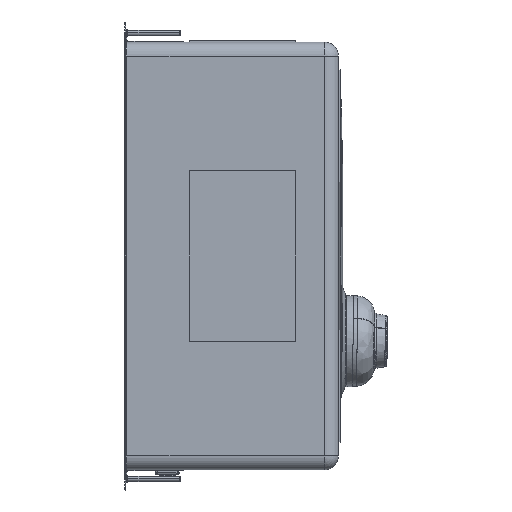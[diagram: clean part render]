
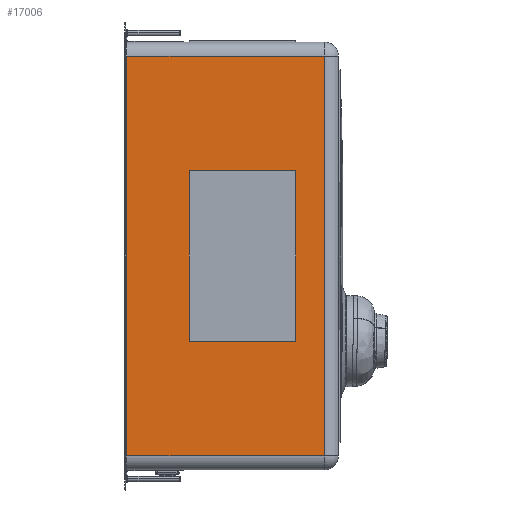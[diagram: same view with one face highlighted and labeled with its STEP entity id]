
A CAD part, left-side view. The second image highlights one B-rep face of the part: STEP entity #17006.
In plain terms, the highlighted planar face has unit normal (-1, 0, 0).
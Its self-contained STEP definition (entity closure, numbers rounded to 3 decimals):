
#6271=DIRECTION('',(0.,1.,0.));
#6272=VECTOR('',#6271,186.);
#6273=CARTESIAN_POINT('',(-226.,-187.,-188.));
#6274=LINE('',#6273,#6272);
#6283=DIRECTION('',(0.,-1.,0.));
#6284=VECTOR('',#6283,186.);
#6285=CARTESIAN_POINT('',(-226.,-1.,188.));
#6286=LINE('',#6285,#6284);
#6351=DIRECTION('',(0.,0.,-1.));
#6352=VECTOR('',#6351,376.);
#6353=CARTESIAN_POINT('',(-226.,-187.,188.));
#6354=LINE('',#6353,#6352);
#11396=DIRECTION('',(0.,0.,1.));
#11397=VECTOR('',#11396,376.);
#11398=CARTESIAN_POINT('',(-226.,-1.,-188.));
#11399=LINE('',#11398,#11397);
#13524=CARTESIAN_POINT('',(-226.,-1.,188.));
#13526=VERTEX_POINT('',#13524);
#14021=CARTESIAN_POINT('',(-226.,-187.,-188.));
#14022=VERTEX_POINT('',#14021);
#14108=CARTESIAN_POINT('',(-226.,-1.,-188.));
#14109=VERTEX_POINT('',#14108);
#14225=CARTESIAN_POINT('',(-226.,-187.,188.));
#14226=VERTEX_POINT('',#14225);
#16992=CARTESIAN_POINT('',(-226.,-200.,-188.));
#16993=DIRECTION('',(1.,0.,0.));
#16994=DIRECTION('',(0.,0.,-1.));
#16995=AXIS2_PLACEMENT_3D('',#16992,#16993,#16994);
#16996=PLANE('',#16995);
#16998=ORIENTED_EDGE('',*,*,#16997,.T.);
#17000=ORIENTED_EDGE('',*,*,#16999,.T.);
#17001=ORIENTED_EDGE('',*,*,#16982,.T.);
#17003=ORIENTED_EDGE('',*,*,#17002,.T.);
#17004=EDGE_LOOP('',(#16998,#17000,#17001,#17003));
#17005=FACE_OUTER_BOUND('',#17004,.F.);
#16982=EDGE_CURVE('',#14022,#14109,#6274,.T.);
#16997=EDGE_CURVE('',#13526,#14226,#6286,.T.);
#16999=EDGE_CURVE('',#14226,#14022,#6354,.T.);
#17002=EDGE_CURVE('',#14109,#13526,#11399,.T.);
#17006=ADVANCED_FACE('',(#17005),#16996,.F.);
